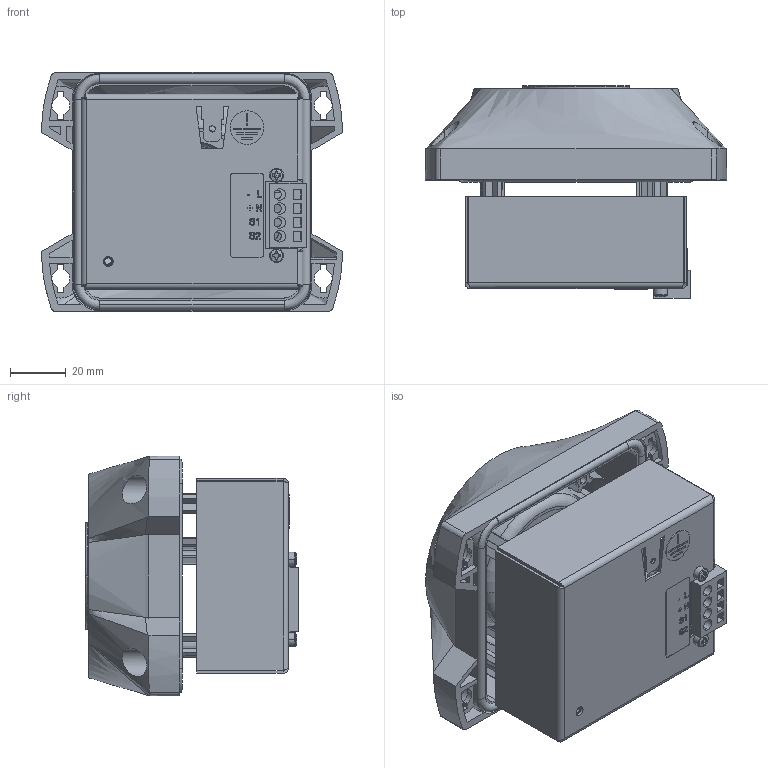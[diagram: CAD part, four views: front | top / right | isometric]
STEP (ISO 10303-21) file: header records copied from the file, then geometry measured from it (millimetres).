
FILE_DESCRIPTION (( 'STEP AP214' ), '1' );
FILE_NAME ('PA 1-PM_30303-112.STEP', '2021-02-23T12:47:26', ( '' ), ( '' ), 'SwSTEP 2.0', 'SolidWorks 2018', '' );
FILE_SCHEMA (( 'AUTOMOTIVE_DESIGN' ));
Length unit declared in the file: millimetre
Products named in the file (2): PA 1-PM_30303-112
Bounding box: 108 x 76.27 x 86 mm (x, y, z)
Surface area: 84663 mm2 (no closed solid volume)
Topology: 0 solids, 20 shells, 547 faces, 2071 edges, 1505 vertices
Faces by surface type: plane 320, cylinder 80, cone 61, bspline 52, torus 30, sphere 4
Entity records: 34878 total; most frequent: CARTESIAN_POINT 12558, ORIENTED_EDGE 3224, DIRECTION 2983, EDGE_CURVE 2069, VERTEX_POINT 1505, VECTOR 1133, LINE 1133, AXIS2_PLACEMENT_3D 925
